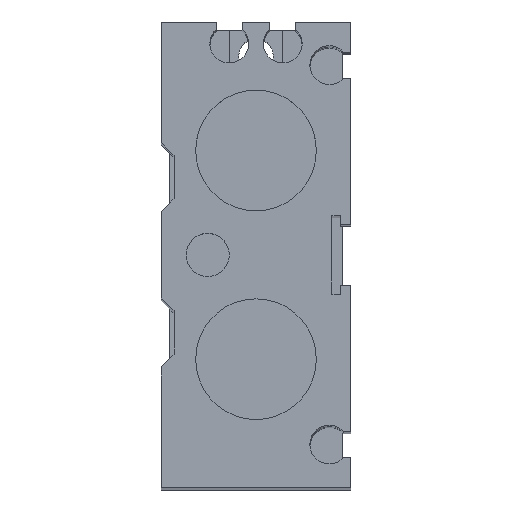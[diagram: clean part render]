
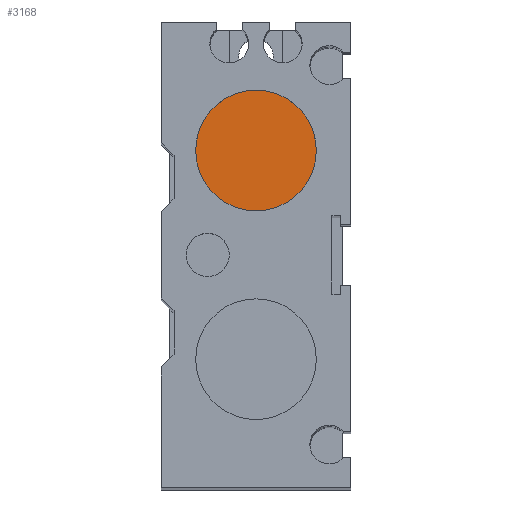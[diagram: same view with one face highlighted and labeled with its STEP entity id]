
A CAD part, top view. The second image highlights one B-rep face of the part: STEP entity #3168.
In plain terms, the highlighted planar face has unit normal (0, 0, 1).
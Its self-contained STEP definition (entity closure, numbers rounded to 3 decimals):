
#3137=CARTESIAN_POINT('',(7.,12.1,269.0));
#3138=VERTEX_POINT('',#3137);
#3139=CARTESIAN_POINT('',(0.,12.1,269.0));
#3140=DIRECTION('',(0.0,0.0,1.0));
#3141=DIRECTION('',(-1.0,0.0,0.0));
#3142=AXIS2_PLACEMENT_3D('',#3139,#3140,#3141);
#3143=CIRCLE('',#3142,7.);
#3144=EDGE_CURVE('',#3138,#3138,#3143,.T.);
#3160=CARTESIAN_POINT('',(0.,12.1,269.0));
#3161=DIRECTION('',(0.0,0.0,-1.0));
#3162=DIRECTION('',(-1.0,0.0,0.0));
#3163=AXIS2_PLACEMENT_3D('',#3160,#3161,#3162);
#3164=PLANE('',#3163);
#3165=ORIENTED_EDGE('',*,*,#3144,.T.);
#3166=EDGE_LOOP('',(#3165));
#3167=FACE_OUTER_BOUND('',#3166,.T.);
#3168=ADVANCED_FACE('',(#3167),#3164,.F.);
